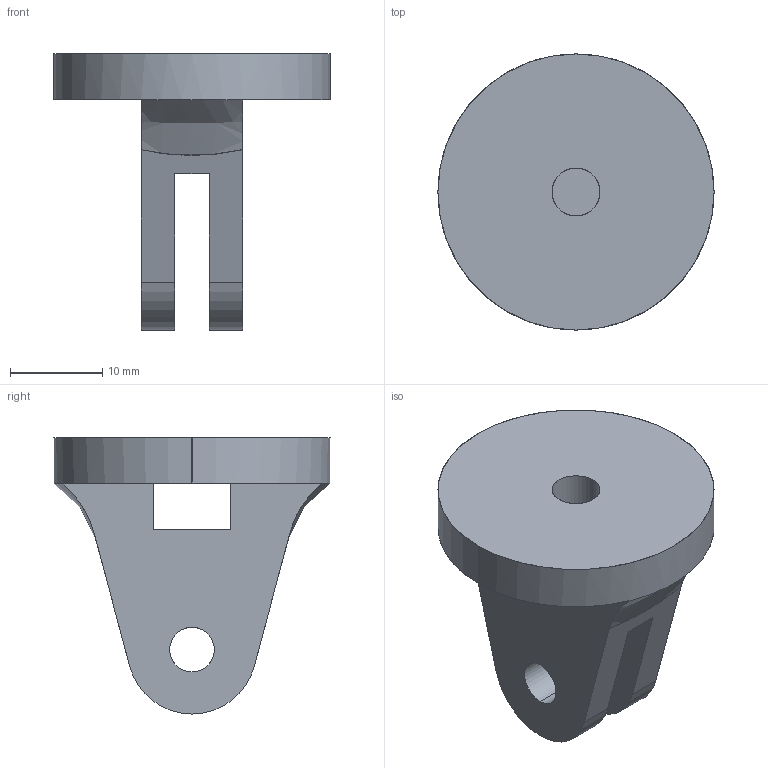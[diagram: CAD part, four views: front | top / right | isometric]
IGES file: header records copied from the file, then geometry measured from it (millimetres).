
Start section: SolidWorks IGES file using analytic representation for surfaces
Global section: file name: C:\Users\Atakan\Documents\tridi\Bantaþ kamera\step-iges\ara parça.IGS; native system: SolidWorks 2015; preprocessor: SolidWorks 2015; author: Atakan; date: 161103.171351; units: millimetre
Bounding box: 30 x 30 x 30 mm (x, y, z)
Surface area: 3803.1 mm2 (no closed solid volume)
Topology: 0 solids, 0 shells, 26 faces, 508 edges, 508 vertices
Faces by surface type: bspline 14, revolution 12
